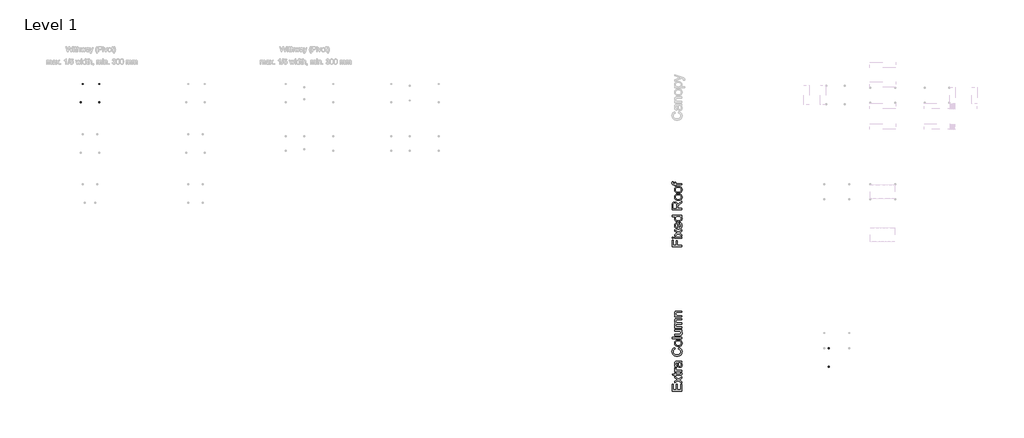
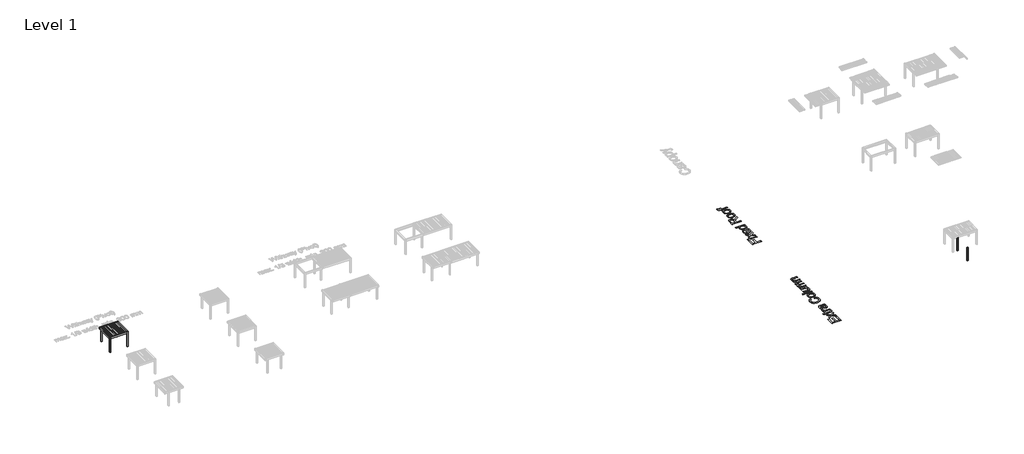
# One storey, part 74 of 80: 5 proxies.
"""IFC4 building model written with IfcOpenShell, lengths in millimetres."""

from ifc_helpers import new_model, si_unit, origin, origin_with_axes, place, context, project, spatial, polyline, outline, extrude, transform, mapped, element, save
from components import generic_models_01261823, generic_models_81e04796

model = new_model("IFC4")

# Units and contexts
model_context = context("Model", 3, world=origin())
ifc_project = project(units=[si_unit("LENGTHUNIT", "METRE", prefix="MILLI")], contexts=[model_context])

# Site, building, storey
site = spatial("IfcSite", under=ifc_project)
building = spatial("IfcBuilding", under=site)
storey = spatial("IfcBuildingStorey", under=building, Name="Level 1", Elevation=0.0)

# Proxies
placement = place(None, origin())
generic_models_shape = generic_models_01261823(model_context)
element("IfcBuildingElementProxy", 1, Name="Renson_Amani_Extra_Column : Renson_Amani_Extra_Column", ObjectType="Renson_Amani_Extra_Column : Renson_Amani_Extra_Column", at=placement, inside=storey, context=model_context, shape_type="MappedRepresentation", body=[
    mapped(generic_models_shape, transform((383650.5749426, 25818.6059779, 0.0), x_axis=(1.0, 0.0, 0.0), y_axis=(0.0, 1.0, 0.0), z_axis=(0.0, 0.0, 1.0))),
])
element("IfcBuildingElementProxy", 2, Name="Renson_Amani_Extra_Column : Renson_Amani_Extra_Column", ObjectType="Renson_Amani_Extra_Column : Renson_Amani_Extra_Column", at=placement, inside=storey, context=model_context, shape_type="MappedRepresentation", body=[
    mapped(generic_models_shape, transform((383650.5749426, 28663.5861401, 0.0), x_axis=(1.0, 0.0, 0.0), y_axis=(0.0, 1.0, 0.0), z_axis=(0.0, 0.0, 1.0))),
])
generic_models_2_shape = generic_models_81e04796(model_context)
element("IfcBuildingElementProxy", 3, Name="Renson_Amani_Patio_Cover : Renson_Amani_Patio_Cover", ObjectType="Renson_Amani_Patio_Cover : Renson_Amani_Patio_Cover", at=placement, inside=storey, context=model_context, shape_type="MappedRepresentation", body=[
    mapped(generic_models_2_shape, transform((269453.165057, 68078.5861401, 0.0), x_axis=(1.0, 0.0, 0.0), y_axis=(0.0, 1.0, 0.0), z_axis=(0.0, 0.0, 1.0))),
])
element("IfcBuildingElementProxy", 4, Name="1500mm", ObjectType="1500mm", at=placement, inside=storey, context=model_context, shape_type="SweptSolid", body=[
    extrude(outline(polyline([(360945.8632627, 22017.8095872), (359439.0186105, 22017.8095872), (359439.0186105, 23100.854181), (359627.374192, 23100.854181), (359627.374192, 22206.1651688), (360074.7186981, 22206.1651688), (360074.7186981, 23053.7652856), (360263.0742797, 23053.7652856), (360263.0742797, 22206.1651688), (360757.5076812, 22206.1651688), (360757.5076812, 23124.3986287), (360945.8632627, 23124.3986287), (360945.8632627, 22017.8095872)])), origin_with_axes(), (0.0, 0.0, 1.0), 5.0),
    extrude(outline(polyline([(360945.8632627, 23265.6653149), (360389.625686, 23668.1282176), (359839.2742212, 23289.2097626), (359839.2742212, 23515.8250716), (360104.1492577, 23698.6624232), (360229.2291361, 23784.0110461), (360126.9579414, 23857.9553271), (359839.2742212, 24066.1765364), (359839.2742212, 24292.7918454), (360389.625686, 23894.7435266), (360945.8632627, 24278.0765656), (360945.8632627, 24051.4612566), (360611.4585291, 23820.7992456), (360550.3901179, 23778.4928161), (360945.8632627, 23492.2806239), (360945.8632627, 23265.6653149)])), origin_with_axes(), (0.0, 0.0, 1.0), 5.0),
    extrude(outline(polyline([(360788.7776508, 24843.1433102), (360951.3814926, 24866.6877579), (360964.901156, 24792.0996834), (360969.4077104, 24725.7889537), (360967.4533373, 24677.7113755), (360961.590218, 24635.3819534), (360951.8183525, 24598.8006875), (360938.1377408, 24567.9675778), (360921.2841469, 24542.0778824), (360901.9933348, 24520.3268594), (360880.2653044, 24502.7145089), (360856.1000559, 24489.2408308), (360823.7034477, 24479.2620317), (360777.2813384, 24472.1343181), (360716.8337281, 24467.8576899), (360642.3606167, 24466.4321471), (360027.6298027, 24466.4321471), (360027.6298027, 24325.165461), (359839.2742212, 24325.165461), (359839.2742212, 24466.4321471), (359570.3524827, 24466.4321471), (359459.6200022, 24654.7877287), (359839.2742212, 24654.7877287), (359839.2742212, 24843.1433102), (360027.6298027, 24843.1433102), (360027.6298027, 24654.7877287), (360636.8423868, 24654.7877287), (360698.8305029, 24657.2709321), (360733.9632335, 24664.7205425), (360753.414994, 24677.7343681), (360768.3602, 24696.9102171), (360777.8791467, 24724.0874995), (360781.0521289, 24761.1056253), (360788.7776508, 24843.1433102)])), origin_with_axes(), (0.0, 0.0, 1.0), 5.0),
    extrude(outline(polyline([(360945.8632627, 25031.4988917), (359839.2742212, 25031.4988917), (359839.2742212, 25196.3100256), (360002.9817091, 25196.3100256), (359950.6504953, 25227.3500689), (359908.0681543, 25257.1944958), (359875.2346862, 25285.8433061), (359852.1500911, 25313.2965), (359836.2162021, 25340.7956792), (359824.8348529, 25369.5824453), (359818.0060434, 25399.6567984), (359815.7297735, 25431.0187385), (359819.3626082, 25477.7397519), (359830.2611123, 25524.8286473), (359848.4252858, 25572.2854246), (359873.8551288, 25620.110084), (360042.7129646, 25557.2022628), (360025.8133854, 25524.0928833), (360013.7422574, 25490.9835037), (360006.4995807, 25457.8741241), (360004.0853551, 25424.7647446), (360006.4076102, 25395.8975043), (360013.3743754, 25368.5247846), (360024.9856509, 25342.6465855), (360041.2414366, 25318.262907), (360061.6129021, 25296.2934541), (360085.571217, 25277.6579317), (360113.1163814, 25262.35634), (360144.2483952, 25250.3886788), (360195.659904, 25237.0299639), (360249.4626458, 25227.4880247), (360305.6566206, 25221.7628611), (360364.2418283, 25219.8544733), (360945.8632627, 25219.8544733), (360945.8632627, 25031.4988917)])), origin_with_axes(), (0.0, 0.0, 1.0), 5.0),
    extrude(outline(polyline([(360804.5965766, 26444.1657532), (360846.5121314, 26399.5025797), (360881.7598251, 26354.1726201), (360910.3396576, 26308.1758744), (360932.2516289, 26261.5123426), (360948.5074146, 26213.6531943), (360960.11869, 26164.0695991), (360967.0854553, 26112.7615571), (360969.4077104, 26059.7290682), (360963.8205026, 25975.8634697), (360956.8364928, 25937.8020535), (360947.0588792, 25902.3215596), (360934.4876616, 25869.4219877), (360919.1228402, 25839.1033379), (360900.9644148, 25811.3656103), (360880.0123856, 25786.2088048), (360856.8875533, 25763.8341069), (360832.2107188, 25744.4427021), (360805.9818822, 25728.0345903), (360778.2010434, 25714.6097715), (360748.8682025, 25704.1682458), (360717.9833593, 25696.7100132), (360651.5576666, 25690.7434271), (360611.6194775, 25692.9967043), (360573.4747131, 25699.756536), (360537.1233734, 25711.0229221), (360502.5654585, 25726.7958626), (360470.5597249, 25746.2361268), (360441.8649293, 25768.5044838), (360416.4810717, 25793.6009337), (360394.4081519, 25821.5254764), (360358.5396574, 25883.8354893), (360332.6039768, 25953.4111716), (360318.1646084, 26021.1934292), (360304.2770631, 26116.3828955), (360290.0216358, 26219.9876624), (360274.4786215, 26308.96912), (360257.6480202, 26383.3272682), (360239.529832, 26443.0621072), (360197.5912845, 26444.1657532), (360151.9279319, 26440.9237931), (360113.5302486, 26431.1979129), (360082.3982348, 26414.9881125), (360058.5318903, 26392.2943919), (360034.7115312, 26353.0689741), (360017.6969889, 26305.2903), (360007.4882635, 26248.9583695), (360004.0853551, 26184.0731826), (360006.3501286, 26123.7405354), (360013.1444492, 26071.8691741), (360024.4683169, 26028.4590986), (360040.3217316, 25993.5103091), (360061.9462951, 25964.7925209), (360090.5836092, 25940.0754493), (360126.2336738, 25919.3590945), (360168.8964889, 25902.6434563), (360145.3520412, 25714.2878748), (360091.0894469, 25728.6237763), (360042.3450826, 25746.9833871), (359999.1189481, 25769.3667072), (359961.4110436, 25795.7737367), (359928.4626124, 25827.3426104), (359899.5148979, 25865.2114633), (359874.5679001, 25909.3802953), (359853.621619, 25959.8491065), (359837.0439366, 26015.5947251), (359825.2027349, 26075.5939793), (359818.0980139, 26139.846869), (359815.7297735, 26208.3533943), (359817.8221024, 26275.3194137), (359824.0990889, 26335.6865499), (359834.5607332, 26389.4548027), (359849.2070351, 26436.6241723), (359867.0148229, 26477.5855332), (359886.9609248, 26512.72976), (359909.0453409, 26542.0568529), (359933.268071, 26565.5668116), (359960.2269234, 26584.6276975), (359990.5197065, 26600.6075716), (360024.1464201, 26613.5064341), (360061.1070643, 26623.3242848), (360126.2221775, 26630.2220723), (360225.9181982, 26632.5213347), (360460.2590291, 26632.5213347), (360664.3875512, 26634.9125677), (360787.4900638, 26642.0862666), (360868.3781175, 26656.2497234), (360945.8632627, 26679.6102301), (360945.8632627, 26491.2546486), (360914.4093521, 26474.5160178), (360880.3802676, 26461.088325), (360843.776009, 26450.9715701), (360804.5965766, 26444.1657532)]), holes=[polyline([(360427.8854135, 26444.1657532), (360444.1871844, 26387.2360144), (360459.2473536, 26317.6143469), (360485.6428867, 26140.2952252), (360500.0822551, 26042.5765702), (360516.1770923, 25978.2432063), (360537.0543956, 25936.0747326), (360550.4590958, 25919.0946793), (360565.8411617, 25904.8507483), (360582.6487703, 25893.5843622), (360600.3300987, 25885.5369435), (360618.8851469, 25880.7084923), (360638.3139147, 25879.0990086), (360667.583526, 25882.6053839), (360694.3239485, 25893.1245097), (360718.5351823, 25910.656386), (360740.2172274, 25935.2010129), (360758.0824968, 25966.528464), (360770.8434035, 26004.4088132), (360778.4999475, 26048.8420604), (360781.0521289, 26099.8282057), (360778.2355323, 26151.883508), (360769.7857428, 26200.9957544), (360755.7027601, 26247.1649448), (360735.9865845, 26290.3910792), (360712.2696921, 26329.3865707), (360686.1845594, 26362.8638323), (360657.7311863, 26390.8228639), (360626.9095729, 26413.2636656), (360599.3184233, 26426.3004838), (360565.8411617, 26435.6124968), (360526.4777882, 26441.1997046), (360481.2283028, 26443.0621072), (360427.8854135, 26444.1657532)])]), origin_with_axes(), (0.0, 0.0, 1.0), 5.0),
    extrude(outline(polyline([(360410.2270777, 28563.1660454), (360458.7875011, 28751.5216269), (360519.2034966, 28734.4323586), (360575.9234276, 28714.2505823), (360628.9472943, 28690.976298), (360678.2750965, 28664.6095056), (360723.9068343, 28635.1502052), (360765.8425076, 28602.5983968), (360804.0821166, 28566.9540803), (360838.6256611, 28528.2172559), (360869.2777039, 28486.8075388), (360895.8428077, 28443.1445445), (360918.3209724, 28397.228273), (360936.7121981, 28349.0587242), (360951.0164847, 28298.6358983), (360961.2338323, 28245.9597951), (360967.3642409, 28191.0304147), (360969.4077104, 28133.847757), (360967.8614564, 28075.0125045), (360963.2226944, 28018.9881004), (360955.4914243, 27965.7745446), (360944.6676462, 27915.3718372), (360930.7513601, 27867.7799781), (360913.742566, 27822.9989674), (360893.6412639, 27781.0288051), (360870.4474537, 27741.8694912), (360844.3220839, 27705.24224), (360815.4261028, 27670.8682661), (360783.7595104, 27638.7475694), (360749.3223068, 27608.8801499), (360712.1144919, 27581.2660077), (360672.1360657, 27555.9051426), (360629.3870282, 27532.7975548), (360583.8673795, 27511.9432442), (360488.3330238, 27477.4198182), (360389.3497745, 27452.7602282), (360286.9176315, 27437.9644742), (360181.0365947, 27433.0325562), (360067.4300361, 27438.6082677), (359961.3190731, 27455.3354022), (359911.07444, 27467.880753), (359862.7037058, 27483.2139596), (359816.2068705, 27501.335022), (359771.5839341, 27522.2439401), (359729.2114009, 27545.722284), (359689.465775, 27571.5516237), (359652.3470565, 27599.7319594), (359617.8552454, 27630.2632909), (359585.9903416, 27663.1456183), (359556.7523452, 27698.3789416), (359530.1412562, 27735.9632607), (359506.1570746, 27775.8985757), (359466.4833007, 27860.1895379), (359438.1448907, 27948.6191725), (359421.1418448, 28041.1874795), (359415.4741628, 28137.894459), (359417.3078246, 28192.8784469), (359422.8088101, 28245.626402), (359431.9771192, 28296.1383244), (359444.8127519, 28344.414214), (359461.3157083, 28390.4540709), (359481.4859883, 28434.257895), (359505.3235919, 28475.8256864), (359532.8285192, 28515.157445), (359563.661629, 28551.9197779), (359597.4837799, 28585.7792918), (359634.294972, 28616.7359869), (359674.0952054, 28644.7898631), (359716.8844799, 28669.9409204), (359762.6627957, 28692.1891589), (359811.4301527, 28711.5345785), (359863.1865509, 28727.9771793), (359908.0681543, 28539.6215977), (359833.9974139, 28509.9611119), (359770.7102144, 28474.3225436), (359718.2065559, 28432.7058929), (359676.4864384, 28385.1111598), (359644.6991347, 28331.2624327), (359621.9939178, 28270.8838002), (359608.3707877, 28203.9752624), (359603.8297443, 28130.5368191), (359608.8651291, 28046.0389233), (359623.9712835, 27968.7607117), (359649.1482076, 27898.7021843), (359684.3959012, 27835.863341), (359728.1278734, 27781.0374274), (359778.757633, 27735.017689), (359836.28518, 27697.8041259), (359900.7105144, 27669.3967381), (359969.1135729, 27648.3929755), (360038.5742921, 27633.3902879), (360109.0926721, 27624.3886753), (360180.6687127, 27621.3881378), (360270.6158606, 27624.9404983), (360354.6768965, 27635.5975798), (360432.8518204, 27653.3593824), (360505.1406325, 27678.225906), (360570.1062936, 27710.5995216), (360626.3117647, 27750.8826001), (360673.7570457, 27799.0751414), (360712.4421368, 27855.1771457), (360742.4590083, 27916.4639868), (360763.8996308, 27980.2110388), (360776.7640044, 28046.4183016), (360781.0521289, 28115.0857753), (360775.2120022, 28196.9740082), (360767.9118439, 28235.4607878), (360757.6916222, 28272.309343), (360744.5513372, 28307.5196736), (360728.4909888, 28341.0917798), (360709.5105771, 28373.0256614), (360687.6101021, 28403.3213185), (360662.835549, 28431.6108691), (360635.232903, 28457.5264312), (360604.8021642, 28481.0680049), (360571.5433326, 28502.23559), (360535.4564082, 28521.0291866), (360496.5413909, 28537.4487947), (360410.2270777, 28563.1660454)])), origin_with_axes(), (0.0, 0.0, 1.0), 5.0),
    extrude(outline(polyline([(360392.568742, 28939.8772085), (360318.4347718, 28942.4236417), (360249.2557122, 28950.0629412), (360185.0315633, 28962.7951071), (360125.762325, 28980.6201394), (360071.4479973, 29003.5380381), (360022.0885802, 29031.5488032), (359977.6840737, 29064.6524346), (359938.2344779, 29102.8489323), (359909.5224378, 29137.8092182), (359884.6386697, 29174.6319067), (359863.5831737, 29213.3169977), (359846.3559496, 29253.8644914), (359832.9569976, 29296.2743876), (359823.3863176, 29340.5466865), (359817.6439095, 29386.6813879), (359815.7297735, 29434.678492), (359818.0606509, 29487.8805515), (359825.0532828, 29538.5936593), (359836.7076695, 29586.8178155), (359853.0238108, 29632.5530201), (359874.0017067, 29675.7992731), (359899.6413574, 29716.5565745), (359929.9427626, 29754.8249242), (359964.9059226, 29790.6043223), (360003.9790142, 29822.980812), (360046.6102144, 29851.0404363), (360092.7995234, 29874.7831954), (360142.546941, 29894.2090892), (360195.8524673, 29909.3181177), (360252.7161022, 29920.1102809), (360313.1378459, 29926.5855789), (360377.1176982, 29928.7440115), (360477.9403575, 29924.9272358), (360567.4046602, 29913.4769087), (360645.5106063, 29894.3930302), (360712.2581958, 29867.6756003), (360769.9122022, 29833.6580121), (360820.7373991, 29792.6736585), (360864.7337865, 29744.7225397), (360901.9013643, 29689.8046556), (360931.4353907, 29630.0583204), (360952.5311239, 29567.621848), (360965.1885638, 29502.4952385), (360969.4077104, 29434.678492), (360967.0854553, 29380.6372017), (360960.11869, 29329.2458114), (360948.5074146, 29280.5043212), (360932.2516289, 29234.4127309), (360911.351333, 29190.9710406), (360885.806527, 29150.1792503), (360855.6172108, 29112.03736), (360820.7833844, 29076.5453697), (360781.5809592, 29044.5137694), (360738.2858469, 29016.7530492), (360690.8980474, 28993.2632089), (360639.4175607, 28974.0442488), (360583.8443868, 28959.0961686), (360524.1785257, 28948.4189686), (360460.4199775, 28942.0126485), (360392.568742, 28939.8772085)]), holes=[polyline([(360392.20086, 29128.23279), (360483.5620542, 29133.6820421), (360524.6470005, 29140.4936071), (360562.6681795, 29150.0297982), (360597.6255913, 29162.2906153), (360629.5192358, 29177.2760585), (360658.3491131, 29194.9861277), (360684.1152231, 29215.4208229), (360706.8348104, 29237.9191061), (360726.5251194, 29261.8199395), (360743.1861501, 29287.123323), (360756.8179024, 29313.8292566), (360767.4203765, 29341.9377403), (360774.9935723, 29371.4487741), (360781.0521289, 29434.678492), (360774.9590833, 29497.5863132), (360767.3427764, 29526.9708875), (360756.6799467, 29554.9759044), (360742.9705942, 29581.6013638), (360726.214719, 29606.8472657), (360706.4123209, 29630.7136102), (360683.5634001, 29653.2003971), (360657.5932306, 29673.6350923), (360628.4270861, 29691.3451615), (360596.0649669, 29706.3306046), (360560.5068728, 29718.5914218), (360521.7528038, 29728.1276129), (360479.8027601, 29734.9391779), (360386.314748, 29740.38843), (360297.8506245, 29734.904689), (360257.9038132, 29728.0500128), (360220.8138355, 29718.453466), (360186.5806914, 29706.1150488), (360155.2043809, 29691.0347611), (360126.684904, 29673.2126028), (360101.0222608, 29652.6485741), (360058.6123645, 29606.1229981), (360041.9513339, 29580.8684739), (360028.3195815, 29554.2861257), (360017.7171074, 29526.3759534), (360010.1439117, 29497.137957), (360004.0853551, 29434.678492), (360010.120919, 29371.4487741), (360017.665374, 29341.9377403), (360028.227611, 29313.8292566), (360041.80763, 29287.123323), (360058.4054309, 29261.8199395), (360078.0210139, 29237.9191061), (360100.6543788, 29215.4208229), (360126.3342665, 29194.9861277), (360155.0894178, 29177.2760585), (360186.9198326, 29162.2906153), (360221.825511, 29150.0297982), (360259.8064529, 29140.4936071), (360300.8626584, 29133.6820421), (360392.20086, 29128.23279)])]), origin_with_axes(), (0.0, 0.0, 1.0), 5.0),
    extrude(outline(polyline([(360945.8632627, 30140.6440407), (359439.0186105, 30140.6440407), (359439.0186105, 30328.9996223), (360945.8632627, 30328.9996223), (360945.8632627, 30140.6440407)])), origin_with_axes(), (0.0, 0.0, 1.0), 5.0),
    extrude(outline(polyline([(360945.8632627, 31317.8664253), (360755.6682712, 31317.8664253), (360805.7634523, 31285.1939056), (360849.1792759, 31249.7162857), (360885.915742, 31211.4335656), (360915.9728506, 31170.3457452), (360939.3506018, 31126.4528247), (360956.0489955, 31079.7548039), (360966.0680317, 31030.2516829), (360969.4077104, 30977.9434618), (360967.0624627, 30931.2799299), (360960.0267195, 30886.2028892), (360948.3004809, 30842.7123396), (360931.8837469, 30800.8082811), (360911.9261487, 30762.34162), (360889.5773174, 30729.1632625), (360864.8372533, 30701.2732088), (360837.7059561, 30678.6714587), (360807.7925514, 30660.1968847), (360774.7061645, 30644.6883594), (360738.4467953, 30632.1458826), (360699.0144439, 30622.5694544), (360627.6453369, 30614.2921095), (360523.9026142, 30611.5329946), (359839.2742212, 30611.5329946), (359839.2742212, 30799.8885761), (360435.2430534, 30799.8885761), (360554.4368198, 30802.7396616), (360627.2774549, 30811.2929179), (360661.2260653, 30822.5708004), (360691.3349073, 30838.7461118), (360717.603981, 30859.8188524), (360740.0332864, 30885.789022), (360757.97903, 30915.8748714), (360770.7974183, 30949.2946514), (360778.4884512, 30986.048362), (360781.0521289, 31026.1360031), (360778.4309697, 31067.4192608), (360770.567492, 31107.3919388), (360757.4616959, 31146.0540372), (360739.1135814, 31183.4055561), (360716.2474162, 31217.4231443), (360689.5874678, 31246.083451), (360659.1337364, 31269.3864761), (360624.8862219, 31287.3322197), (360584.660625, 31300.6909347), (360536.2726463, 31310.2328739), (360479.7222859, 31315.9580375), (360415.0095437, 31317.8664253), (359839.2742212, 31317.8664253), (359839.2742212, 31506.2220068), (360945.8632627, 31506.2220068), (360945.8632627, 31317.8664253)])), origin_with_axes(), (0.0, 0.0, 1.0), 5.0),
    extrude(outline(polyline([(360945.8632627, 31765.2109314), (359839.2742212, 31765.2109314), (359839.2742212, 31953.566513), (360021.3758088, 31953.566513), (359977.287451, 31979.8700756), (359937.7286402, 32010.2203402), (359902.6993765, 32044.6173068), (359872.1996598, 32083.0609753), (359847.4940845, 32124.9305448), (359829.8472451, 32169.6052146), (359819.2591414, 32217.0849846), (359815.7297735, 32267.3698549), (359819.3281193, 32322.3452205), (359830.1231566, 32372.124253), (359848.1148854, 32416.7069523), (359873.3033058, 32456.0933184), (359904.9756463, 32490.1683882), (359942.4191356, 32518.8171986), (359985.6337737, 32542.0397495), (360034.6195607, 32559.836041), (359983.3172668, 32592.9569169), (359938.8552788, 32628.4920184), (359901.2335966, 32666.4413454), (359870.4522203, 32706.8048981), (359846.5111498, 32749.5826763), (359829.4103852, 32794.7746802), (359819.1499265, 32842.3809096), (359815.7297735, 32892.4013647), (359821.4204481, 32967.8056774), (359828.5337914, 33002.0503178), (359838.492472, 33033.9899476), (359851.2964899, 33063.6245667), (359866.945845, 33090.9541752), (359885.4405375, 33115.9787731), (359906.7805673, 33138.6983604), (359931.0808976, 33158.9174998), (359958.4564913, 33176.4407539), (359988.9073487, 33191.2681227), (360022.4334696, 33203.3996063), (360059.034854, 33212.8352047), (360098.711502, 33219.5749178), (360187.2905887, 33224.9666883), (360945.8632627, 33224.9666883), (360945.8632627, 33036.6111068), (360268.2246276, 33036.6111068), (360174.2767631, 33032.2425081), (360138.7876469, 33026.7817597), (360110.9550747, 33019.136712), (360088.111902, 33008.6290825), (360067.5909845, 32994.5805888), (360049.392322, 32976.9912309), (360033.5159147, 32955.8610088), (360020.6400448, 32931.9601755), (360011.442995, 32906.0589837), (360005.924765, 32878.1574337), (360004.0853551, 32848.2555252), (360008.7988431, 32794.878147), (360022.9393073, 32746.2142568), (360046.5067476, 32702.2638547), (360079.5011641, 32663.0269407), (360099.7749109, 32645.739361), (360122.8882469, 32630.7567919), (360148.841172, 32618.0792335), (360177.6336863, 32607.7066856), (360243.7374823, 32593.8766219), (360321.1996349, 32589.2666006), (360945.8632627, 32589.2666006), (360945.8632627, 32400.9110191), (360247.2553539, 32400.9110191), (360190.1876594, 32398.1863931), (360140.7535163, 32390.012515), (360098.9529246, 32376.3893849), (360064.7858843, 32357.3170027), (360038.2294027, 32332.0366118), (360019.2604874, 32299.7894557), (360007.8791381, 32260.5755343), (360004.0853551, 32214.3948475), (360006.6145438, 32177.3997144), (360014.2021099, 32141.830124), (360026.8480535, 32107.6860763), (360044.5523745, 32074.9675714), (360067.131132, 32045.1691298), (360094.4003849, 32019.7852721), (360126.3601332, 31998.8159984), (360163.010377, 31982.2613086), (360206.3054893, 31969.7073355), (360258.1998432, 31960.7402119), (360318.6934388, 31955.3599377), (360387.786276, 31953.566513), (360945.8632627, 31953.566513), (360945.8632627, 31765.2109314)])), origin_with_axes(), (0.0, 0.0, 1.0), 5.0),
    extrude(outline(polyline([(360945.8632627, 33507.5000606), (359839.2742212, 33507.5000606), (359839.2742212, 33695.8556421), (359993.7846592, 33695.8556421), (359952.0530454, 33726.9301744), (359915.8856467, 33761.292652), (359885.2824632, 33798.943075), (359860.2434949, 33839.8814432), (359840.7687418, 33884.1077568), (359826.8582039, 33931.6220158), (359818.5118811, 33982.4242201), (359815.7297735, 34036.5143697), (359817.9715544, 34083.9136655), (359824.6968972, 34129.3585882), (359835.9058017, 34172.8491378), (359851.5982681, 34214.3853143), (359870.9350654, 34252.392123), (359893.076963, 34285.2945689), (359918.0239608, 34313.0926522), (359945.7760588, 34335.7863727), (359976.2987681, 34354.4218951), (360009.5575997, 34370.0453835), (360045.5525537, 34382.6568382), (360084.28363, 34392.256259), (360155.7447076, 34399.7058694), (360266.3852176, 34402.1890729), (360945.8632627, 34402.1890729), (360945.8632627, 34213.8334913), (360291.7690753, 34213.8334913), (360194.3723171, 34208.4072319), (360156.2275527, 34201.6244076), (360125.1185315, 34192.1284536), (360098.9184356, 34179.1951022), (360075.5004474, 34162.1000858), (360054.8645667, 34140.8434042), (360037.0107936, 34115.4250576), (360022.6059143, 34086.7187657), (360012.3167147, 34055.5982482), (360006.143195, 34022.063505), (360004.0853551, 33986.1145363), (360008.7068726, 33928.9203824), (360022.5714253, 33875.795923), (360045.6790131, 33826.7411582), (360078.0296361, 33781.756088), (360098.5907907, 33761.623171), (360123.3021141, 33744.1746429), (360152.1636063, 33729.4105038), (360185.1752672, 33717.3307536), (360222.3370969, 33707.9353923), (360263.6490953, 33701.22442), (360358.7235984, 33695.8556421), (360945.8632627, 33695.8556421), (360945.8632627, 33507.5000606)])), origin_with_axes(), (0.0, 0.0, 1.0), 5.0),
])
element("IfcBuildingElementProxy", 5, Name="1500mm", ObjectType="1500mm", at=placement, inside=storey, context=model_context, shape_type="SweptSolid", body=[
    extrude(outline(polyline([(360945.8632627, 44375.5752885), (359439.0186105, 44375.5752885), (359439.0186105, 45387.9865392), (359627.374192, 45387.9865392), (359627.374192, 44563.93087), (360074.7186981, 44563.93087), (360074.7186981, 45270.2643008), (360263.0742797, 45270.2643008), (360263.0742797, 44563.93087), (360945.8632627, 44563.93087), (360945.8632627, 44375.5752885)])), origin_with_axes(), (0.0, 0.0, 1.0), 5.0),
    extrude(outline(polyline([(359627.374192, 45623.4310162), (359439.0186105, 45623.4310162), (359439.0186105, 45811.7865977), (359627.374192, 45811.7865977), (359627.374192, 45623.4310162)])), origin_with_axes(), (0.0, 0.0, 1.0), 5.0),
    extrude(outline(polyline([(360945.8632627, 45623.4310162), (359839.2742212, 45623.4310162), (359839.2742212, 45811.7865977), (360945.8632627, 45811.7865977), (360945.8632627, 45623.4310162)])), origin_with_axes(), (0.0, 0.0, 1.0), 5.0),
    extrude(outline(polyline([(360945.8632627, 45976.5977315), (360389.625686, 46379.0606342), (359839.2742212, 46000.1421792), (359839.2742212, 46226.7574882), (360104.1492577, 46409.5948398), (360229.2291361, 46494.9434627), (360126.9579414, 46568.8877438), (359839.2742212, 46777.108953), (359839.2742212, 47003.7242621), (360389.625686, 46605.6759433), (360945.8632627, 46989.0089822), (360945.8632627, 46762.3936732), (360611.4585291, 46531.7316622), (360550.3901179, 46489.4252328), (360945.8632627, 46203.2130406), (360945.8632627, 45976.5977315)])), origin_with_axes(), (0.0, 0.0, 1.0), 5.0),
    extrude(outline(polyline([(360616.240995, 47928.5795979), (360639.7854427, 48113.2563595), (360713.7527164, 48084.9409422), (360747.4426597, 48067.0670506), (360778.9368074, 48046.7157036), (360808.2351594, 48023.8869014), (360835.3377158, 47998.5806438), (360860.2444765, 47970.796931), (360882.9554415, 47940.5357628), (360903.2176921, 47907.9465913), (360920.7783092, 47873.1788687), (360935.6372929, 47836.2325949), (360947.7946432, 47797.1077699), (360964.0044436, 47712.3224663), (360969.4077104, 47618.822958), (360967.0768331, 47558.7949631), (360960.0842011, 47501.9514466), (360948.4298144, 47448.2924088), (360932.1136731, 47397.8178494), (360911.1357772, 47350.5277685), (360885.4961266, 47306.4221662), (360855.1947213, 47265.5010424), (360820.2315614, 47227.7643971), (360781.0607511, 47193.8790165), (360738.1363949, 47164.5116866), (360691.4584927, 47139.6624074), (360641.0270445, 47119.331179), (360586.8420503, 47103.5180014), (360528.9035101, 47092.2228745), (360467.211424, 47085.4457984), (360401.7657918, 47083.186773), (360334.0927492, 47085.468791), (360270.3169564, 47092.314845), (360210.4384136, 47103.724935), (360154.4571206, 47119.699061), (360102.3730775, 47140.237223), (360054.1862843, 47165.3394211), (360009.896741, 47195.0056551), (359969.5044475, 47229.2359251), (359933.4635083, 47267.104778), (359902.2280276, 47307.6867606), (359875.7980056, 47350.9818729), (359854.173442, 47396.9901149), (359837.3543371, 47445.7114866), (359825.3406907, 47497.1459881), (359818.1325028, 47551.2936193), (359815.7297735, 47608.1543801), (359818.1267547, 47663.1556125), (359825.317698, 47715.587419), (359837.3026037, 47765.4497998), (359854.0814715, 47812.7427547), (359875.6543016, 47857.4662838), (359902.021094, 47899.6203871), (359933.1818486, 47939.2050646), (359969.1365655, 47976.2203163), (360009.4368885, 48009.7176964), (360053.6344613, 48038.7487592), (360101.729284, 48063.3135046), (360153.7213566, 48083.4119327), (360209.6106791, 48099.0440434), (360269.3972515, 48110.2098367), (360333.0810737, 48116.9093128), (360400.6621459, 48119.1424714), (360451.4298612, 48118.0388254), (360451.4298612, 47271.5423545), (360526.5927513, 47282.452355), (360560.6735693, 47291.951183), (360592.4206358, 47304.1458964), (360621.833951, 47319.0364949), (360648.9135147, 47336.6229788), (360673.6593271, 47356.9053478), (360696.071388, 47379.8836021), (360733.2504621, 47431.5365335), (360759.8069437, 47489.1905399), (360775.7408326, 47552.8456214), (360781.0521289, 47622.5017779), (360778.591918, 47674.6030655), (360771.2112855, 47722.7496216), (360758.9102313, 47766.9414463), (360741.6887554, 47807.1785395), (360719.0870053, 47843.4609013), (360690.6451286, 47875.7885316), (360656.3631251, 47904.1614305), (360616.240995, 47928.5795979)]), holes=[polyline([(360263.0742797, 47271.5423545), (360263.0742797, 47930.7868899), (360209.7773756, 47921.1069949), (360163.5622, 47905.3110617), (360124.4287527, 47883.3990904), (360092.3770339, 47855.3710809), (360071.6836717, 47830.5735352), (360053.7494244, 47804.0055573), (360038.5742921, 47775.6671474), (360026.1582748, 47745.5583053), (360009.603585, 47680.0293249), (360004.0853551, 47607.4186161), (360008.4884427, 47541.1883607), (360021.6977056, 47480.4533426), (360043.7131437, 47425.2135617), (360074.5347571, 47375.4690182), (360112.7370031, 47333.725908), (360156.8943388, 47302.4904274), (360207.0067643, 47281.7625762), (360263.0742797, 47271.5423545)])]), origin_with_axes(), (0.0, 0.0, 1.0), 5.0),
    extrude(outline(polyline([(360945.8632627, 48990.287036), (360768.176259, 48990.287036), (360815.3398805, 48963.5983469), (360856.215019, 48933.9321129), (360890.8016747, 48901.288334), (360919.0998476, 48865.6670101), (360941.1095376, 48827.0681414), (360956.8307447, 48785.4917278), (360966.263469, 48740.9377693), (360969.4077104, 48693.4062659), (360964.8551707, 48631.2342087), (360951.1975516, 48571.6373255), (360928.4348532, 48514.6156162), (360896.5670754, 48460.169081), (360856.5484121, 48409.9991739), (360809.3330573, 48365.8073492), (360754.9210109, 48327.5936069), (360693.312273, 48295.3579471), (360625.6794675, 48269.7671558), (360553.1952181, 48251.4880192), (360475.8595249, 48240.5205372), (360393.672388, 48236.8647099), (360312.9912679, 48240.2331294), (360236.1269235, 48250.338388), (360163.0793548, 48267.1804856), (360093.8485619, 48290.7594222), (360030.4578956, 48321.0637015), (359974.9307069, 48358.0818273), (359927.2669959, 48401.8137995), (359887.4667626, 48452.2596181), (359856.0818299, 48507.6373547), (359833.6640208, 48566.1650808), (359820.2133353, 48627.8427966), (359815.7297735, 48692.6705019), (359818.9372447, 48740.081294), (359828.5596581, 48784.8249417), (359844.5970138, 48826.9014449), (359867.0493119, 48866.3108036), (359894.6289652, 48902.616158), (359926.0483868, 48935.3806482), (359961.3075768, 48964.6042742), (360000.4065351, 48990.287036), (359439.0186105, 48990.287036), (359439.0186105, 49178.6426175), (360945.8632627, 49178.6426175), (360945.8632627, 48990.287036)]), holes=[polyline([(360392.936624, 48425.2202914), (360484.2748256, 48430.5315877), (360525.3310311, 48437.1707081), (360563.311973, 48446.4654766), (360598.2176513, 48458.4158933), (360630.0480662, 48473.0219582), (360658.8032174, 48490.2836712), (360684.4831051, 48510.2010323), (360726.732053, 48554.5997906), (360756.9098729, 48602.8153246), (360775.0165649, 48654.8476343), (360781.0521289, 48710.6967197), (360775.2924764, 48766.8102203), (360758.0135189, 48818.5321295), (360729.2152565, 48865.8624475), (360688.8976891, 48908.8011741), (360664.3386918, 48927.899423), (360636.73892, 48944.4512387), (360606.0983735, 48958.4566212), (360572.4170524, 48969.9155705), (360495.9320863, 48985.1941696), (360407.2840218, 48990.287036), (360310.0941972, 48985.1021991), (360266.6898699, 48978.6211531), (360226.7459326, 48969.5476885), (360190.2623854, 48957.8818056), (360157.2392282, 48943.6235042), (360127.676461, 48926.7727844), (360101.5740838, 48907.3296461), (360058.922765, 48863.4482219), (360042.1668897, 48839.7054628), (360028.4575372, 48814.7613391), (360017.7947075, 48788.6158507), (360010.1784006, 48761.2689977), (360004.0853551, 48702.9711978), (360009.936978, 48646.0184664), (360027.491847, 48593.9861567), (360056.7499619, 48546.8742687), (360097.7113228, 48504.6828024), (360122.8048986, 48486.0587764), (360151.2726421, 48469.9179538), (360183.1145532, 48456.2603348), (360218.330632, 48445.0859192), (360298.8852926, 48430.1866984), (360392.936624, 48425.2202914)])]), origin_with_axes(), (0.0, 0.0, 1.0), 5.0),
    extrude(outline(polyline([(360945.8632627, 50073.3316298), (359439.0186105, 50073.3316298), (359439.0186105, 50722.6433513), (359441.5592955, 50815.8439555), (359449.1813506, 50897.1573728), (359461.8847757, 50966.583603), (359479.6695709, 51024.1226463), (359503.9037974, 51073.1199296), (359535.9555162, 51116.9208796), (359575.8247274, 51155.5254965), (359623.511431, 51188.9337802), (359676.4519494, 51215.8926326), (359732.0826049, 51235.1489558), (359790.4033974, 51246.7027497), (359851.4143271, 51250.5540144), (359890.90416, 51248.958901), (359928.8075018, 51244.173561), (359965.1243525, 51236.1979943), (359999.8547121, 51225.032201), (360032.9985806, 51210.6761809), (360064.555958, 51193.1299342), (360094.5268443, 51172.3934608), (360122.9112395, 51148.4667607), (360149.2435429, 51121.2061301), (360173.058154, 51090.4678649), (360194.3550726, 51056.2519653), (360213.1342988, 51018.5584312), (360229.3958326, 50977.3872626), (360243.139674, 50932.7384595), (360263.0742797, 50833.0079499), (360303.6332696, 50895.0880365), (360343.6404366, 50940.0616104), (360435.1510829, 51017.2248589), (360537.5142481, 51092.7326384), (360945.8632627, 51343.9960412), (360945.8632627, 51125.106254), (360633.5314488, 50929.0251506), (360514.3376824, 50850.5743151), (360426.7817675, 50787.3905824), (360366.4951056, 50734.7374719), (360344.9395199, 50710.5837196), (360329.1090978, 50687.8785028), (360307.1741338, 50643.5027371), (360293.2406033, 50598.2992369), (360288.2741963, 50554.245368), (360286.6187274, 50489.0382844), (360286.6187274, 50261.6872113), (360945.8632627, 50261.6872113), (360945.8632627, 50073.3316298)]), holes=[polyline([(360098.2631458, 50261.6872113), (360098.2631458, 50683.2799778), (360096.5961805, 50747.2109708), (360091.5952847, 50804.3591395), (360083.2604582, 50854.7244839), (360071.5917012, 50898.307004), (360056.2556205, 50936.0838864), (360036.9188231, 50969.0323176), (360013.5813091, 50997.1522976), (359986.2430783, 51020.4438264), (359956.2491994, 51038.7114667), (359924.9447408, 51051.7597812), (359892.3297027, 51059.5887699), (359858.404085, 51062.1984328), (359810.2345362, 51057.2205296), (359766.5255567, 51042.2868199), (359727.2771463, 51017.3973036), (359692.4893051, 50982.5519809), (359677.2279505, 50961.1947066), (359664.0014431, 50936.9461098), (359643.6529703, 50879.7749485), (359631.4438866, 50811.038497), (359627.374192, 50730.7367552), (359627.374192, 50261.6872113), (360098.2631458, 50261.6872113)])]), origin_with_axes(), (0.0, 0.0, 1.0), 5.0),
    extrude(outline(polyline([(360392.568742, 51509.542939), (360318.4347718, 51512.0893722), (360249.2557122, 51519.7286717), (360185.0315633, 51532.4608377), (360125.762325, 51550.2858699), (360071.4479973, 51573.2037686), (360022.0885802, 51601.2145337), (359977.6840737, 51634.3181651), (359938.2344779, 51672.5146628), (359909.5224378, 51707.4749487), (359884.6386697, 51744.2976372), (359863.5831737, 51782.9827282), (359846.3559496, 51823.5302219), (359832.9569976, 51865.9401181), (359823.3863176, 51910.212417), (359817.6439095, 51956.3471184), (359815.7297735, 52004.3442225), (359818.0606509, 52057.546282), (359825.0532828, 52108.2593898), (359836.7076695, 52156.483546), (359853.0238108, 52202.2187507), (359874.0017067, 52245.4650036), (359899.6413574, 52286.222305), (359929.9427626, 52324.4906547), (359964.9059226, 52360.2700528), (360003.9790142, 52392.6465425), (360046.6102144, 52420.7061668), (360092.7995234, 52444.4489259), (360142.546941, 52463.8748197), (360195.8524673, 52478.9838482), (360252.7161022, 52489.7760114), (360313.1378459, 52496.2513094), (360377.1176982, 52498.409742), (360477.9403575, 52494.5929663), (360567.4046602, 52483.1426392), (360645.5106063, 52464.0587607), (360712.2581958, 52437.3413308), (360769.9122022, 52403.3237426), (360820.7373991, 52362.3393891), (360864.7337865, 52314.3882702), (360901.9013643, 52259.4703861), (360931.4353907, 52199.7240509), (360952.5311239, 52137.2875785), (360965.1885638, 52072.160969), (360969.4077104, 52004.3442225), (360967.0854553, 51950.3029322), (360960.11869, 51898.9115419), (360948.5074146, 51850.1700517), (360932.2516289, 51804.0784614), (360911.351333, 51760.6367711), (360885.806527, 51719.8449808), (360855.6172108, 51681.7030905), (360820.7833844, 51646.2111002), (360781.5809592, 51614.1794999), (360738.2858469, 51586.4187797), (360690.8980474, 51562.9289395), (360639.4175607, 51543.7099793), (360583.8443868, 51528.7618992), (360524.1785257, 51518.0846991), (360460.4199775, 51511.678379), (360392.568742, 51509.542939)]), holes=[polyline([(360392.20086, 51697.8985205), (360483.5620542, 51703.3477726), (360524.6470005, 51710.1593376), (360562.6681795, 51719.6955287), (360597.6255913, 51731.9563458), (360629.5192358, 51746.941789), (360658.3491131, 51764.6518582), (360684.1152231, 51785.0865534), (360706.8348104, 51807.5848366), (360726.5251194, 51831.48567), (360743.1861501, 51856.7890535), (360756.8179024, 51883.4949871), (360767.4203765, 51911.6034708), (360774.9935723, 51941.1145046), (360781.0521289, 52004.3442225), (360774.9590833, 52067.2520437), (360767.3427764, 52096.636618), (360756.6799467, 52124.6416349), (360742.9705942, 52151.2670943), (360726.214719, 52176.5129962), (360706.4123209, 52200.3793407), (360683.5634001, 52222.8661276), (360657.5932306, 52243.3008228), (360628.4270861, 52261.010892), (360596.0649669, 52275.9963352), (360560.5068728, 52288.2571523), (360521.7528038, 52297.7933434), (360479.8027601, 52304.6049084), (360386.314748, 52310.0541605), (360297.8506245, 52304.5704195), (360257.9038132, 52297.7157433), (360220.8138355, 52288.1191965), (360186.5806914, 52275.7807793), (360155.2043809, 52260.7004916), (360126.684904, 52242.8783334), (360101.0222608, 52222.3143046), (360058.6123645, 52175.7887286), (360041.9513339, 52150.5342044), (360028.3195815, 52123.9518562), (360017.7171074, 52096.0416839), (360010.1439117, 52066.8036875), (360004.0853551, 52004.3442225), (360010.120919, 51941.1145046), (360017.665374, 51911.6034708), (360028.227611, 51883.4949871), (360041.80763, 51856.7890535), (360058.4054309, 51831.48567), (360078.0210139, 51807.5848366), (360100.6543788, 51785.0865534), (360126.3342665, 51764.6518582), (360155.0894178, 51746.941789), (360186.9198326, 51731.9563458), (360221.825511, 51719.6955287), (360259.8064529, 51710.1593376), (360300.8626584, 51703.3477726), (360392.20086, 51697.8985205)])]), origin_with_axes(), (0.0, 0.0, 1.0), 5.0),
    extrude(outline(polyline([(360392.568742, 52663.2208759), (360318.4347718, 52665.767309), (360249.2557122, 52673.4066086), (360185.0315633, 52686.1387745), (360125.762325, 52703.9638068), (360071.4479973, 52726.8817055), (360022.0885802, 52754.8924705), (359977.6840737, 52787.9961019), (359938.2344779, 52826.1925997), (359909.5224378, 52861.1528856), (359884.6386697, 52897.975574), (359863.5831737, 52936.6606651), (359846.3559496, 52977.2081587), (359832.9569976, 53019.618055), (359823.3863176, 53063.8903539), (359817.6439095, 53110.0250553), (359815.7297735, 53158.0221594), (359818.0606509, 53211.2242188), (359825.0532828, 53261.9373267), (359836.7076695, 53310.1614829), (359853.0238108, 53355.8966875), (359874.0017067, 53399.1429405), (359899.6413574, 53439.9002419), (359929.9427626, 53478.1685916), (359964.9059226, 53513.9479897), (360003.9790142, 53546.3244794), (360046.6102144, 53574.3841037), (360092.7995234, 53598.1268628), (360142.546941, 53617.5527566), (360195.8524673, 53632.6617851), (360252.7161022, 53643.4539483), (360313.1378459, 53649.9292462), (360377.1176982, 53652.0876789), (360477.9403575, 53648.2709032), (360567.4046602, 53636.8205761), (360645.5106063, 53617.7366976), (360712.2581958, 53591.0192677), (360769.9122022, 53557.0016795), (360820.7373991, 53516.0173259), (360864.7337865, 53468.0662071), (360901.9013643, 53413.148323), (360931.4353907, 53353.4019877), (360952.5311239, 53290.9655154), (360965.1885638, 53225.8389059), (360969.4077104, 53158.0221594), (360967.0854553, 53103.9808691), (360960.11869, 53052.5894788), (360948.5074146, 53003.8479885), (360932.2516289, 52957.7563982), (360911.351333, 52914.314708), (360885.806527, 52873.5229177), (360855.6172108, 52835.3810274), (360820.7833844, 52799.8890371), (360781.5809592, 52767.8574368), (360738.2858469, 52740.0967165), (360690.8980474, 52716.6068763), (360639.4175607, 52697.3879162), (360583.8443868, 52682.439836), (360524.1785257, 52671.7626359), (360460.4199775, 52665.3563159), (360392.568742, 52663.2208759)]), holes=[polyline([(360392.20086, 52851.5764574), (360483.5620542, 52857.0257094), (360524.6470005, 52863.8372745), (360562.6681795, 52873.3734656), (360597.6255913, 52885.6342827), (360629.5192358, 52900.6197259), (360658.3491131, 52918.329795), (360684.1152231, 52938.7644902), (360706.8348104, 52961.2627735), (360726.5251194, 52985.1636069), (360743.1861501, 53010.4669904), (360756.8179024, 53037.172924), (360767.4203765, 53065.2814076), (360774.9935723, 53094.7924414), (360781.0521289, 53158.0221594), (360774.9590833, 53220.9299805), (360767.3427764, 53250.3145549), (360756.6799467, 53278.3195718), (360742.9705942, 53304.9450312), (360726.214719, 53330.1909331), (360706.4123209, 53354.0572775), (360683.5634001, 53376.5440645), (360657.5932306, 53396.9787597), (360628.4270861, 53414.6888289), (360596.0649669, 53429.674272), (360560.5068728, 53441.9350891), (360521.7528038, 53451.4712802), (360479.8027601, 53458.2828453), (360386.314748, 53463.7320974), (360297.8506245, 53458.2483564), (360257.9038132, 53451.3936801), (360220.8138355, 53441.7971334), (360186.5806914, 53429.4587162), (360155.2043809, 53414.3784284), (360126.684904, 53396.5562702), (360101.0222608, 53375.9922415), (360058.6123645, 53329.4666654), (360041.9513339, 53304.2121413), (360028.3195815, 53277.6297931), (360017.7171074, 53249.7196207), (360010.1439117, 53220.4816244), (360004.0853551, 53158.0221594), (360010.120919, 53094.7924414), (360017.665374, 53065.2814076), (360028.227611, 53037.172924), (360041.80763, 53010.4669904), (360058.4054309, 52985.1636069), (360078.0210139, 52961.2627735), (360100.6543788, 52938.7644902), (360126.3342665, 52918.329795), (360155.0894178, 52900.6197259), (360186.9198326, 52885.6342827), (360221.825511, 52873.3734656), (360259.8064529, 52863.8372745), (360300.8626584, 52857.0257094), (360392.20086, 52851.5764574)])]), origin_with_axes(), (0.0, 0.0, 1.0), 5.0),
    extrude(outline(polyline([(360945.8632627, 53911.0766035), (360027.6298027, 53911.0766035), (360027.6298027, 53746.2654697), (359839.2742212, 53746.2654697), (359839.2742212, 53911.0766035), (359727.8059767, 53911.0766035), (359635.5595664, 53916.0430104), (359599.7140645, 53922.2510191), (359570.7203647, 53930.9422312), (359537.7719335, 53947.31298), (359508.0884551, 53968.8340767), (359481.6699293, 53995.5055214), (359458.5163562, 54027.327314), (359439.6853966, 54064.9892332), (359426.2347111, 54109.1810579), (359418.1642999, 54159.902788), (359415.4741628, 54217.1544235), (359420.6245107, 54298.9161969), (359436.0755545, 54388.9553152), (359612.6589122, 54361.3641656), (359606.0370363, 54305.5380728), (359603.8297443, 54252.838977), (359605.7841174, 54213.969945), (359611.6472367, 54181.2399437), (359621.4191022, 54154.6489732), (359635.0997139, 54134.1970336), (359654.1146145, 54118.9874123), (359679.8893468, 54108.1233972), (359712.4239108, 54101.6049881), (359751.7183064, 54099.432185), (359839.2742212, 54099.432185), (359839.2742212, 54311.3322142), (360027.6298027, 54311.3322142), (360027.6298027, 54099.432185), (360945.8632627, 54099.432185), (360945.8632627, 53911.0766035)])), origin_with_axes(), (0.0, 0.0, 1.0), 5.0),
])

save(model, "model.ifc")
